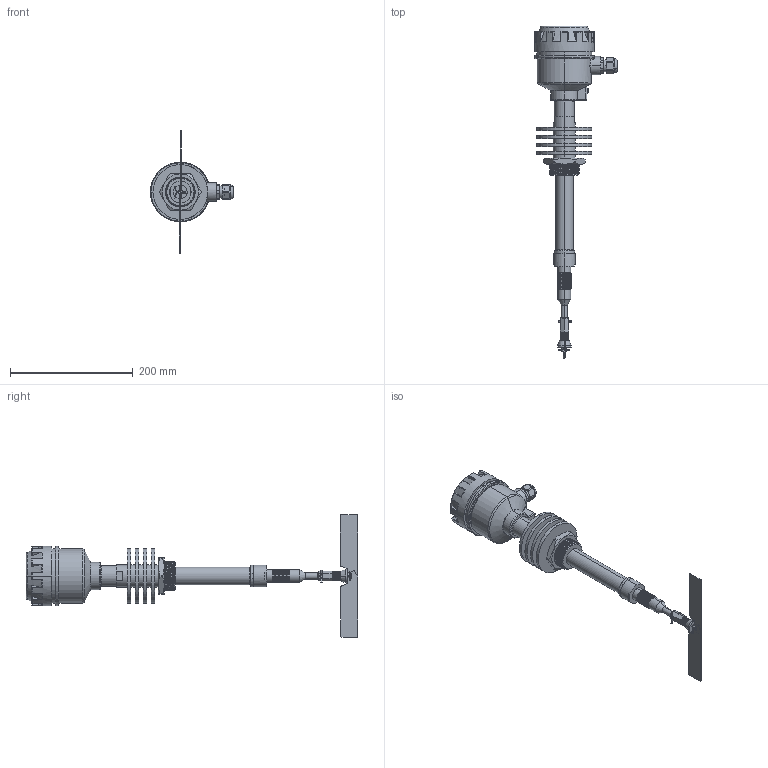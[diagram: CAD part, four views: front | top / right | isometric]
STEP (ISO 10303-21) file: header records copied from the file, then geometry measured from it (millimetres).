
FILE_DESCRIPTION (( 'STEP AP214' ), '1' );
FILE_NAME ('IL-SAA-N-HT600 ñêëàäíàÿ ëîïàñòü - ð.STEP', '2020-12-25T10:45:41', ( '' ), ( '' ), 'SwSTEP 2.0', 'SolidWorks 2020', '' );
FILE_SCHEMA (( 'AUTOMOTIVE_DESIGN' ));
Length unit declared in the file: millimetre
Products named in the file (10): 扻錝僝鍧; 幄鼭歑; Ïðóæèíà; Êðûøêà; Ãîôðà; Øïèëüêà 2ìì; Êîðïóñ-ð2; Øïèëüêà; Ëîïàñòü ñêëàäíàÿ; IL-SAA-N-HT600 ñêëàäíàÿ ëîïàñòü - ð
Assembly tree (9 placements, depth 2):
  IL-SAA-N-HT600 ñêëàäíàÿ ëîïàñòü - ð
    Êîðïóñ-ð2
    扻錝僝鍧
    Êðûøêà
    Øïèëüêà
    幄鼭歑
    Ãîôðà
    Ëîïàñòü ñêëàäíàÿ
    Ïðóæèíà
    Øïèëüêà 2ìì
Bounding box: 135 x 540 x 200 mm (x, y, z)
Volume: 896633 mm3; surface area: 182788.3 mm2
Topology: 9 solids, 9 shells, 744 faces, 1745 edges, 1046 vertices
Faces by surface type: cylinder 301, plane 192, torus 153, cone 35, sphere 34, bspline 29
Entity records: 34703 total; most frequent: CARTESIAN_POINT 17359, DIRECTION 3789, ORIENTED_EDGE 3442, EDGE_CURVE 1721, AXIS2_PLACEMENT_3D 1610, VERTEX_POINT 1038, CIRCLE 883, EDGE_LOOP 801
